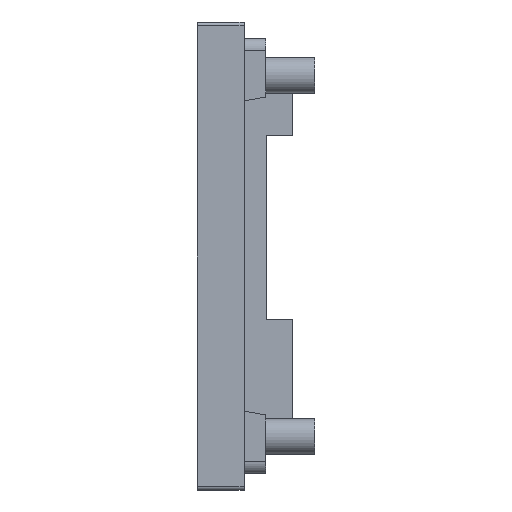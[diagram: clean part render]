
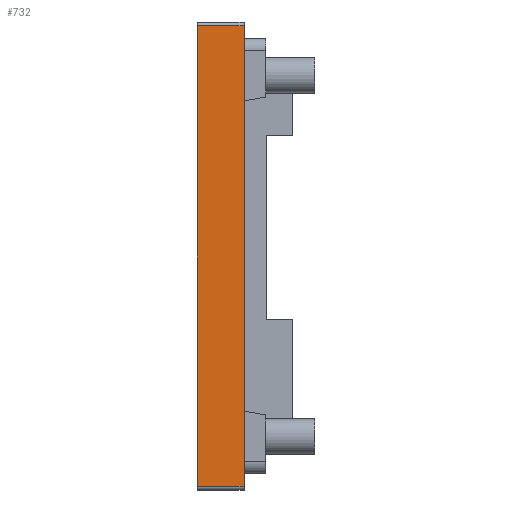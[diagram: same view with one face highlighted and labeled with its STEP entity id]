
A CAD part, left-side view. The second image highlights one B-rep face of the part: STEP entity #732.
In plain terms, the highlighted planar face has unit normal (-1, 0, 0).
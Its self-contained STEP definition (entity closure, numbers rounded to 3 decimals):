
#3 = EDGE_CURVE ( 'NONE', #3345, #3279, #2361, .T. ) ;
#99 = CARTESIAN_POINT ( 'NONE',  ( -59.75, 6.5, 31.9 ) ) ;
#162 = CARTESIAN_POINT ( 'NONE',  ( -59.75, 0., -31.9 ) ) ;
#388 = VECTOR ( 'NONE', #4783, 1000. ) ;
#577 = CARTESIAN_POINT ( 'NONE',  ( -59.75, 6.5, -31.9 ) ) ;
#732 = ADVANCED_FACE ( 'NONE', ( #4500 ), #1982, .F. ) ;
#1503 = VERTEX_POINT ( 'NONE', #3643 ) ;
#1602 = ORIENTED_EDGE ( 'NONE', *, *, #5873, .T. ) ;
#1982 = PLANE ( 'NONE',  #3305 ) ;
#2098 = VECTOR ( 'NONE', #3715, 1000. ) ;
#2361 = LINE ( 'NONE', #3244, #5649 ) ;
#2379 = DIRECTION ( 'NONE',  ( 1., 0., 0. ) ) ;
#2567 = CARTESIAN_POINT ( 'NONE',  ( -59.75, 0., 32.4 ) ) ;
#2824 = EDGE_CURVE ( 'NONE', #3345, #3658, #5938, .T. ) ;
#3174 = ORIENTED_EDGE ( 'NONE', *, *, #2824, .T. ) ;
#3244 = CARTESIAN_POINT ( 'NONE',  ( -59.75, 6.5, 32.4 ) ) ;
#3279 = VERTEX_POINT ( 'NONE', #5849 ) ;
#3305 = AXIS2_PLACEMENT_3D ( 'NONE', #5004, #2379, #5497 ) ;
#3345 = VERTEX_POINT ( 'NONE', #577 ) ;
#3480 = VECTOR ( 'NONE', #4213, 1000. ) ;
#3556 = ORIENTED_EDGE ( 'NONE', *, *, #5616, .T. ) ;
#3643 = CARTESIAN_POINT ( 'NONE',  ( -59.75, 0., 31.9 ) ) ;
#3658 = VERTEX_POINT ( 'NONE', #162 ) ;
#3715 = DIRECTION ( 'NONE',  ( 0., 1., 0. ) ) ;
#4133 = ORIENTED_EDGE ( 'NONE', *, *, #3, .F. ) ;
#4213 = DIRECTION ( 'NONE',  ( 0., -1., 0. ) ) ;
#4500 = FACE_OUTER_BOUND ( 'NONE', #4586, .T. ) ;
#4576 = CARTESIAN_POINT ( 'NONE',  ( -59.75, 6.5, -31.9 ) ) ;
#4586 = EDGE_LOOP ( 'NONE', ( #4133, #3174, #3556, #1602 ) ) ;
#4783 = DIRECTION ( 'NONE',  ( 0., 0., 1. ) ) ;
#4908 = DIRECTION ( 'NONE',  ( 0., 0., 1. ) ) ;
#5004 = CARTESIAN_POINT ( 'NONE',  ( -59.75, 6.5, 32.4 ) ) ;
#5175 = LINE ( 'NONE', #2567, #388 ) ;
#5497 = DIRECTION ( 'NONE',  ( 0., 0., -1. ) ) ;
#5616 = EDGE_CURVE ( 'NONE', #3658, #1503, #5175, .T. ) ;
#5649 = VECTOR ( 'NONE', #4908, 1000. ) ;
#5849 = CARTESIAN_POINT ( 'NONE',  ( -59.75, 6.5, 31.9 ) ) ;
#5873 = EDGE_CURVE ( 'NONE', #1503, #3279, #5927, .T. ) ;
#5927 = LINE ( 'NONE', #99, #2098 ) ;
#5938 = LINE ( 'NONE', #4576, #3480 ) ;
